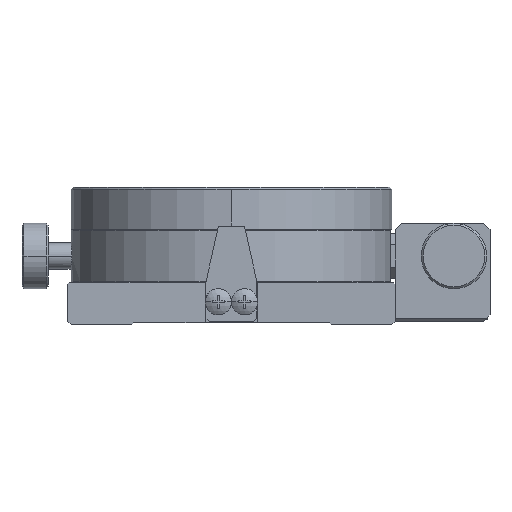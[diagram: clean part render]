
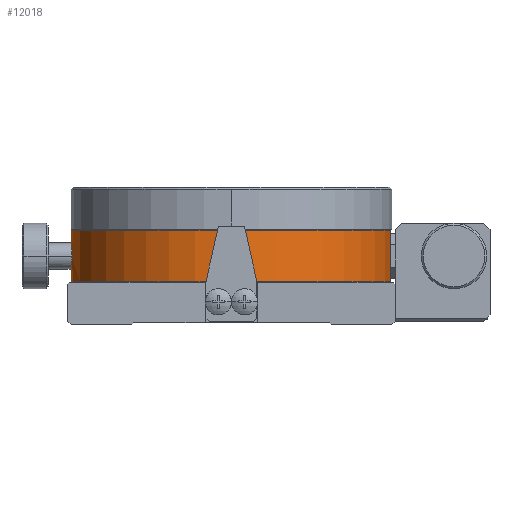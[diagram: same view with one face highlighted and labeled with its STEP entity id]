
A CAD part, front view. The second image highlights one B-rep face of the part: STEP entity #12018.
In plain terms, the highlighted cylindrical face has radius 24.5 mm (diameter 49 mm), a partial arc.
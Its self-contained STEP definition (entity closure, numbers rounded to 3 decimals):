
#11812 = VERTEX_POINT ( 'NONE', #20631 ) ;
#11870 = EDGE_CURVE ( 'NONE', #11812, #11871, #20817, .T. ) ;
#11871 = VERTEX_POINT ( 'NONE', #20819 ) ;
#11903 = VERTEX_POINT ( 'NONE', #20860 ) ;
#12018 = ADVANCED_FACE ( 'NONE', ( #21149 ), #21191, .T. ) ;
#12019 = EDGE_LOOP ( 'NONE', ( #12020, #12021, #12024, #12027, #12090, #12091, #12093, #12094 ) ) ;
#12020 = ORIENTED_EDGE ( 'NONE', *, *, #12030, .F. ) ;
#12021 = ORIENTED_EDGE ( 'NONE', *, *, #12022, .T. ) ;
#12022 = EDGE_CURVE ( 'NONE', #11903, #12023, #21192, .T. ) ;
#12023 = VERTEX_POINT ( 'NONE', #21182 ) ;
#12024 = ORIENTED_EDGE ( 'NONE', *, *, #12025, .T. ) ;
#12025 = EDGE_CURVE ( 'NONE', #12023, #12026, #21181, .T. ) ;
#12026 = VERTEX_POINT ( 'NONE', #21177 ) ;
#12027 = ORIENTED_EDGE ( 'NONE', *, *, #12028, .F. ) ;
#12028 = EDGE_CURVE ( 'NONE', #12040, #12026, #21175, .T. ) ;
#12030 = EDGE_CURVE ( 'NONE', #11903, #12031, #21176, .T. ) ;
#12031 = VERTEX_POINT ( 'NONE', #21167 ) ;
#12037 = VERTEX_POINT ( 'NONE', #21219 ) ;
#12039 = EDGE_CURVE ( 'NONE', #12037, #12040, #21221, .T. ) ;
#12040 = VERTEX_POINT ( 'NONE', #21201 ) ;
#12090 = ORIENTED_EDGE ( 'NONE', *, *, #12039, .F. ) ;
#12091 = ORIENTED_EDGE ( 'NONE', *, *, #12092, .T. ) ;
#12092 = EDGE_CURVE ( 'NONE', #12037, #11871, #21301, .T. ) ;
#12093 = ORIENTED_EDGE ( 'NONE', *, *, #11870, .F. ) ;
#12094 = ORIENTED_EDGE ( 'NONE', *, *, #12095, .F. ) ;
#12095 = EDGE_CURVE ( 'NONE', #12031, #11812, #21293, .T. ) ;
#20631 = CARTESIAN_POINT ( 'NONE',  ( -2.001, 24.418, -4. ) ) ;
#20794 = CARTESIAN_POINT ( 'NONE',  ( -0.442, 24.496, -2.049 ) ) ;
#20795 = CARTESIAN_POINT ( 'NONE',  ( -0.551, 24.494, -2.074 ) ) ;
#20796 = CARTESIAN_POINT ( 'NONE',  ( -0.658, 24.491, -2.108 ) ) ;
#20797 = CARTESIAN_POINT ( 'NONE',  ( -0.866, 24.485, -2.194 ) ) ;
#20798 = CARTESIAN_POINT ( 'NONE',  ( -0.967, 24.481, -2.246 ) ) ;
#20799 = CARTESIAN_POINT ( 'NONE',  ( -1.157, 24.473, -2.365 ) ) ;
#20800 = CARTESIAN_POINT ( 'NONE',  ( -1.247, 24.468, -2.432 ) ) ;
#20801 = CARTESIAN_POINT ( 'NONE',  ( -1.415, 24.459, -2.581 ) ) ;
#20802 = CARTESIAN_POINT ( 'NONE',  ( -1.493, 24.455, -2.664 ) ) ;
#20803 = CARTESIAN_POINT ( 'NONE',  ( -1.633, 24.446, -2.839 ) ) ;
#20804 = CARTESIAN_POINT ( 'NONE',  ( -1.695, 24.441, -2.932 ) ) ;
#20805 = CARTESIAN_POINT ( 'NONE',  ( -1.804, 24.434, -3.129 ) ) ;
#20806 = CARTESIAN_POINT ( 'NONE',  ( -1.851, 24.43, -3.233 ) ) ;
#20807 = CARTESIAN_POINT ( 'NONE',  ( -1.925, 24.424, -3.444 ) ) ;
#20808 = CARTESIAN_POINT ( 'NONE',  ( -1.953, 24.422, -3.553 ) ) ;
#20809 = CARTESIAN_POINT ( 'NONE',  ( -1.991, 24.419, -3.774 ) ) ;
#20810 = CARTESIAN_POINT ( 'NONE',  ( -2.001, 24.418, -3.888 ) ) ;
#20816 = CARTESIAN_POINT ( 'NONE',  ( -2.001, 24.418, -4. ) ) ;
#20817 = B_SPLINE_CURVE_WITH_KNOTS ( 'NONE', 3,
 ( #20816, #20810, #20809, #20808, #20807, #20806, #20805, #20804, #20803, #20802, #20801, #20800, #20799, #20798, #20797, #20796, #20795, #20794 ),
 .UNSPECIFIED., .F., .F.,
 ( 4, 2, 2, 2, 2, 2, 2, 2, 4 ),
 ( 0.003, 0.003, 0.004, 0.004, 0.004, 0.005, 0.005, 0.005, 0.006 ),
 .UNSPECIFIED. ) ;
#20819 = CARTESIAN_POINT ( 'NONE',  ( -0.442, 24.496, -2.049 ) ) ;
#20860 = CARTESIAN_POINT ( 'NONE',  ( 0., 24.5, -7.9 ) ) ;
#21149 = FACE_OUTER_BOUND ( 'NONE', #12019, .T. ) ;
#21167 = CARTESIAN_POINT ( 'NONE',  ( 0., 24.5, -6. ) ) ;
#21168 = DIRECTION ( 'NONE',  ( 0., 0., 1. ) ) ;
#21169 = VECTOR ( 'NONE', #21168, 1000. ) ;
#21170 = CARTESIAN_POINT ( 'NONE',  ( 0., 24.5, 6.27 ) ) ;
#21171 = DIRECTION ( 'NONE',  ( 0., 1., 0. ) ) ;
#21172 = DIRECTION ( 'NONE',  ( 0., 0., 1. ) ) ;
#21173 = CARTESIAN_POINT ( 'NONE',  ( 0., 0., -0.1 ) ) ;
#21174 = AXIS2_PLACEMENT_3D ( 'NONE', #21173, #21172, #21171 ) ;
#21175 = CIRCLE ( 'NONE', #21174, 24.5 ) ;
#21176 = LINE ( 'NONE', #21170, #21169 ) ;
#21177 = CARTESIAN_POINT ( 'NONE',  ( -3.05, -24.309, -0.1 ) ) ;
#21178 = DIRECTION ( 'NONE',  ( 0., 0., 1. ) ) ;
#21179 = VECTOR ( 'NONE', #21178, 1000. ) ;
#21180 = CARTESIAN_POINT ( 'NONE',  ( -3.05, -24.309, -8.001 ) ) ;
#21181 = LINE ( 'NONE', #21180, #21179 ) ;
#21182 = CARTESIAN_POINT ( 'NONE',  ( -3.05, -24.309, -7.9 ) ) ;
#21183 = DIRECTION ( 'NONE',  ( 0., 1., 0. ) ) ;
#21184 = DIRECTION ( 'NONE',  ( 0., 0., 1. ) ) ;
#21185 = CARTESIAN_POINT ( 'NONE',  ( 0., 0., -7.9 ) ) ;
#21186 = AXIS2_PLACEMENT_3D ( 'NONE', #21185, #21184, #21183 ) ;
#21187 = DIRECTION ( 'NONE',  ( 0., 1., 0. ) ) ;
#21188 = DIRECTION ( 'NONE',  ( 0., 0., 1. ) ) ;
#21189 = CARTESIAN_POINT ( 'NONE',  ( 0., 0., 6.27 ) ) ;
#21190 = AXIS2_PLACEMENT_3D ( 'NONE', #21189, #21188, #21187 ) ;
#21191 = CYLINDRICAL_SURFACE ( 'NONE', #21190, 24.5 ) ;
#21192 = CIRCLE ( 'NONE', #21186, 24.5 ) ;
#21201 = CARTESIAN_POINT ( 'NONE',  ( 0., 24.5, -0.1 ) ) ;
#21202 = DIRECTION ( 'NONE',  ( 0., 0., 1. ) ) ;
#21203 = VECTOR ( 'NONE', #21202, 1000. ) ;
#21218 = CARTESIAN_POINT ( 'NONE',  ( 0., 24.5, 6.27 ) ) ;
#21219 = CARTESIAN_POINT ( 'NONE',  ( 0., 24.5, -2. ) ) ;
#21221 = LINE ( 'NONE', #21218, #21203 ) ;
#21293 = B_SPLINE_CURVE_WITH_KNOTS ( 'NONE', 3,
 ( #21350, #21349, #21348, #21347, #21346, #21345, #21344, #21343, #21342, #21341, #21340, #21339, #21338, #21337 ),
 .UNSPECIFIED., .F., .F.,
 ( 4, 2, 2, 2, 2, 2, 4 ),
 ( 0., 0., 0.001, 0.001, 0.002, 0.002, 0.003 ),
 .UNSPECIFIED. ) ;
#21295 = CARTESIAN_POINT ( 'NONE',  ( -0.442, 24.496, -2.049 ) ) ;
#21296 = CARTESIAN_POINT ( 'NONE',  ( -0.37, 24.497, -2.033 ) ) ;
#21297 = CARTESIAN_POINT ( 'NONE',  ( -0.297, 24.498, -2.021 ) ) ;
#21298 = CARTESIAN_POINT ( 'NONE',  ( -0.15, 24.5, -2.004 ) ) ;
#21299 = CARTESIAN_POINT ( 'NONE',  ( -0.075, 24.5, -2. ) ) ;
#21300 = CARTESIAN_POINT ( 'NONE',  ( 0., 24.5, -2. ) ) ;
#21301 = B_SPLINE_CURVE_WITH_KNOTS ( 'NONE', 3,
 ( #21300, #21299, #21298, #21297, #21296, #21295 ),
 .UNSPECIFIED., .F., .F.,
 ( 4, 2, 4 ),
 ( 0.009, 0.01, 0.01 ),
 .UNSPECIFIED. ) ;
#21337 = CARTESIAN_POINT ( 'NONE',  ( -2.001, 24.418, -4. ) ) ;
#21338 = CARTESIAN_POINT ( 'NONE',  ( -2.001, 24.418, -4.261 ) ) ;
#21339 = CARTESIAN_POINT ( 'NONE',  ( -1.948, 24.423, -4.525 ) ) ;
#21340 = CARTESIAN_POINT ( 'NONE',  ( -1.749, 24.438, -5.006 ) ) ;
#21341 = CARTESIAN_POINT ( 'NONE',  ( -1.6, 24.448, -5.229 ) ) ;
#21342 = CARTESIAN_POINT ( 'NONE',  ( -1.323, 24.464, -5.506 ) ) ;
#21343 = CARTESIAN_POINT ( 'NONE',  ( -1.22, 24.47, -5.591 ) ) ;
#21344 = CARTESIAN_POINT ( 'NONE',  ( -1.002, 24.48, -5.736 ) ) ;
#21345 = CARTESIAN_POINT ( 'NONE',  ( -0.888, 24.484, -5.797 ) ) ;
#21346 = CARTESIAN_POINT ( 'NONE',  ( -0.645, 24.492, -5.898 ) ) ;
#21347 = CARTESIAN_POINT ( 'NONE',  ( -0.518, 24.495, -5.936 ) ) ;
#21348 = CARTESIAN_POINT ( 'NONE',  ( -0.262, 24.499, -5.987 ) ) ;
#21349 = CARTESIAN_POINT ( 'NONE',  ( -0.132, 24.5, -6. ) ) ;
#21350 = CARTESIAN_POINT ( 'NONE',  ( 0., 24.5, -6. ) ) ;
